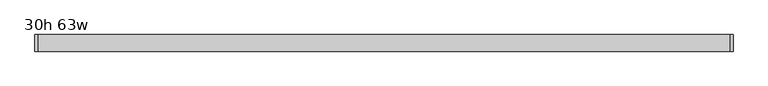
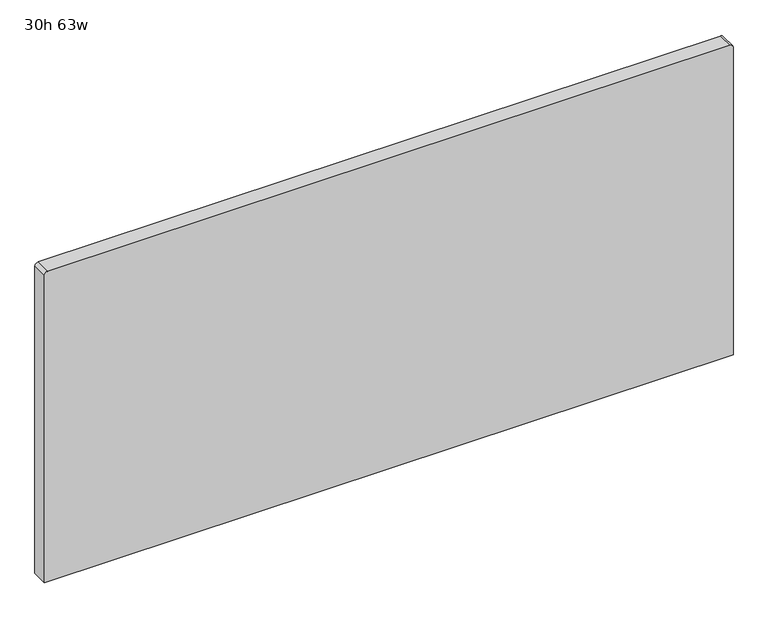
"""IFC4 building model written with IfcOpenShell, lengths in millimetres: furniture geometry, Haworth_BelongGallaryEndPanel_Limited : 30h 63w."""

from ifc_helpers import new_model, si_unit, point, frame, frame_2d, origin, place, context, project, spatial, polyline, circle_curve, trimmed, segment, composite_curve, outline, extrude, source, transform, mapped, element, save


def furniture_30h_63w_c6021e88(model_context):
    return source(origin(), model_context, "Body", "SweptSolid", [
        extrude(outline(composite_curve([segment(polyline([(762.0, 759.4979564), (762.0, -824.8270436)]), True, "CONTINUOUS"), segment(trimmed(circle_curve(frame_2d((754.0625, -824.8270436)), 7.9375), [point((762.0, -824.8270436))], [point((754.0625, -832.7645436))], False, "CARTESIAN"), True, "CONTINUOUS"), segment(polyline([(754.0625, -832.7645436), (0.0, -832.7645436), (0.0, 767.4354564), (754.0625, 767.4354564)]), True, "CONTINUOUS"), segment(trimmed(circle_curve(frame_2d((754.0625, 759.4979564)), 7.9375), [point((754.0625, 767.4354564))], [point((762.0, 759.4979564))], False, "CARTESIAN"), True, "CONTINUOUS")], self_intersect=False)), frame((0.0, -19.05, 0.0), z_axis=(0.0, 1.0, 0.0), x_axis=(0.0, 0.0, 1.0)), (0.0, 0.0, 1.0), 38.1),
    ])


if __name__ == "__main__":
    model = new_model("IFC4")
    model_context = context("Model", 3, world=origin())
    ifc_project = project(units=[si_unit("LENGTHUNIT", "METRE", prefix="MILLI")], contexts=[model_context])
    site = spatial("IfcSite", under=ifc_project)
    building = spatial("IfcBuilding", under=site)
    placement = place(None, origin())
    furniture_30h_63w_shape = furniture_30h_63w_c6021e88(model_context)
    element("IfcFurniture", 1, ObjectType="Haworth_BelongGallaryEndPanel_Limited : 30h 63w", at=placement, inside=building, context=model_context, shape_type="MappedRepresentation", body=[
        mapped(furniture_30h_63w_shape, transform((0.0, 0.0, 0.0), x_axis=(1.0, 0.0, 0.0), y_axis=(0.0, 1.0, 0.0), z_axis=(0.0, 0.0, 1.0))),
    ])
    save(model, "model.ifc")
